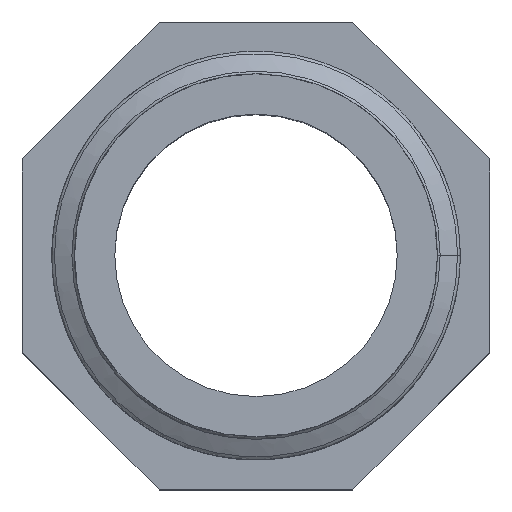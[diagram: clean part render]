
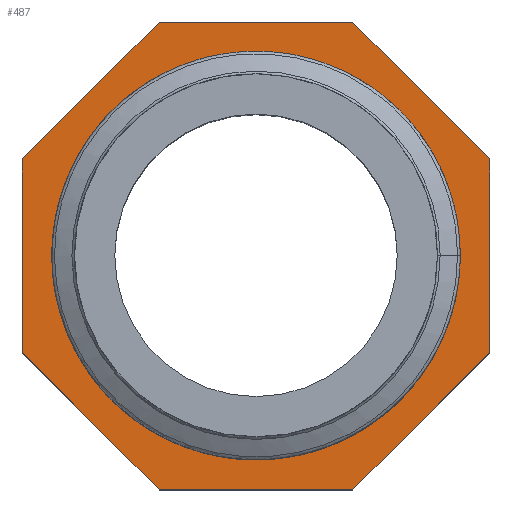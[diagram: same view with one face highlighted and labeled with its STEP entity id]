
A CAD part, top view. The second image highlights one B-rep face of the part: STEP entity #487.
In plain terms, the highlighted planar face has unit normal (0, 0, 1).
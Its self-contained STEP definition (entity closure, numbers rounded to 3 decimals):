
#17=FACE_BOUND('',#162,.T.);
#38=PLANE('',#520);
#49=LINE('',#7933,#80);
#53=LINE('',#7941,#84);
#56=LINE('',#7947,#87);
#59=LINE('',#7953,#90);
#62=LINE('',#7959,#93);
#65=LINE('',#7965,#96);
#68=LINE('',#7971,#99);
#71=LINE('',#7976,#102);
#80=VECTOR('',#566,9.941);
#84=VECTOR('',#572,9.941);
#87=VECTOR('',#577,9.941);
#90=VECTOR('',#582,9.941);
#93=VECTOR('',#587,9.941);
#96=VECTOR('',#592,9.941);
#99=VECTOR('',#597,9.941);
#102=VECTOR('',#602,9.941);
#129=FACE_OUTER_BOUND('',#161,.T.);
#161=EDGE_LOOP('',(#426,#427,#428,#429,#430,#431,#432,#433));
#162=EDGE_LOOP('',(#434,#435,#436,#437,#438));
#184=B_SPLINE_CURVE_WITH_KNOTS('',3,(#1114,#1115,#1116,#1117,#1118,#1119),
 .UNSPECIFIED.,.F.,.F.,(4,2,4),(0.,0.364,0.819),
 .UNSPECIFIED.);
#187=B_SPLINE_CURVE_WITH_KNOTS('',3,(#1852,#1853,#1854,#1855,#1856,#1857,
#1858,#1859),.UNSPECIFIED.,.F.,.F.,(4,2,2,4),(0.,0.21,0.323,
0.444),.UNSPECIFIED.);
#190=B_SPLINE_CURVE_WITH_KNOTS('',3,(#2414,#2415,#2416,#2417,#2418,#2419,
#2420,#2421,#2422,#2423,#2424,#2425,#2426),.UNSPECIFIED.,.F.,.F.,(4,3,3,
3,4),(0.,0.143,0.644,1.132,1.606),
 .UNSPECIFIED.);
#192=B_SPLINE_CURVE_WITH_KNOTS('',3,(#3152,#3153,#3154,#3155,#3156,#3157,
#3158,#3159,#3160,#3161,#3162,#3163),.UNSPECIFIED.,.F.,.F.,(4,2,2,2,2,4),
(0.,0.26,0.498,0.73,0.889,
1.024),.UNSPECIFIED.);
#194=B_SPLINE_CURVE_WITH_KNOTS('',3,(#3670,#3671,#3672,#3673,#3674,#3675,
#3676,#3677,#3678,#3679,#3680,#3681,#3682),.UNSPECIFIED.,.F.,.F.,(4,3,3,
3,4),(0.,0.137,0.613,1.102,1.603),
 .UNSPECIFIED.);
#207=VERTEX_POINT('',#1112);
#208=VERTEX_POINT('',#1113);
#211=VERTEX_POINT('',#1851);
#214=VERTEX_POINT('',#2413);
#216=VERTEX_POINT('',#3151);
#231=VERTEX_POINT('',#7931);
#232=VERTEX_POINT('',#7932);
#235=VERTEX_POINT('',#7940);
#237=VERTEX_POINT('',#7946);
#239=VERTEX_POINT('',#7952);
#241=VERTEX_POINT('',#7958);
#243=VERTEX_POINT('',#7964);
#245=VERTEX_POINT('',#7970);
#251=EDGE_CURVE('',#207,#208,#184,.T.);
#255=EDGE_CURVE('',#211,#207,#187,.T.);
#259=EDGE_CURVE('',#214,#211,#190,.T.);
#262=EDGE_CURVE('',#216,#214,#192,.T.);
#265=EDGE_CURVE('',#208,#216,#194,.T.);
#290=EDGE_CURVE('',#231,#232,#49,.T.);
#294=EDGE_CURVE('',#235,#231,#53,.T.);
#297=EDGE_CURVE('',#237,#235,#56,.T.);
#300=EDGE_CURVE('',#239,#237,#59,.T.);
#303=EDGE_CURVE('',#241,#239,#62,.T.);
#306=EDGE_CURVE('',#243,#241,#65,.T.);
#309=EDGE_CURVE('',#245,#243,#68,.T.);
#312=EDGE_CURVE('',#232,#245,#71,.T.);
#426=ORIENTED_EDGE('',*,*,#312,.F.);
#427=ORIENTED_EDGE('',*,*,#290,.F.);
#428=ORIENTED_EDGE('',*,*,#294,.F.);
#429=ORIENTED_EDGE('',*,*,#297,.F.);
#430=ORIENTED_EDGE('',*,*,#300,.F.);
#431=ORIENTED_EDGE('',*,*,#303,.F.);
#432=ORIENTED_EDGE('',*,*,#306,.F.);
#433=ORIENTED_EDGE('',*,*,#309,.F.);
#434=ORIENTED_EDGE('',*,*,#251,.T.);
#435=ORIENTED_EDGE('',*,*,#265,.T.);
#436=ORIENTED_EDGE('',*,*,#262,.T.);
#437=ORIENTED_EDGE('',*,*,#259,.T.);
#438=ORIENTED_EDGE('',*,*,#255,.T.);
#487=ADVANCED_FACE('',(#129,#17),#38,.T.);
#520=AXIS2_PLACEMENT_3D('',#7984,#612,#613);
#566=DIRECTION('',(1.,0.,0.));
#572=DIRECTION('',(0.707,0.707,0.));
#577=DIRECTION('',(0.,1.,0.));
#582=DIRECTION('',(-0.707,0.707,0.));
#587=DIRECTION('',(-1.,0.,0.));
#592=DIRECTION('',(-0.707,-0.707,0.));
#597=DIRECTION('',(0.,-1.,0.));
#602=DIRECTION('',(0.707,-0.707,0.));
#612=DIRECTION('center_axis',(0.,0.,1.));
#613=DIRECTION('ref_axis',(1.,0.,0.));
#1112=CARTESIAN_POINT('',(-1.11,-9.248,20.));
#1113=CARTESIAN_POINT('',(-7.301,-5.998,20.));
#1114=CARTESIAN_POINT('Ctrl Pts',(-1.111,-9.249,20.));
#1115=CARTESIAN_POINT('Ctrl Pts',(-2.316,-9.104,20.));
#1116=CARTESIAN_POINT('Ctrl Pts',(-3.48,-8.734,20.));
#1117=CARTESIAN_POINT('Ctrl Pts',(-5.888,-7.44,20.));
#1118=CARTESIAN_POINT('Ctrl Pts',(-6.778,-6.564,20.));
#1119=CARTESIAN_POINT('Ctrl Pts',(-7.301,-5.998,20.));
#1851=CARTESIAN_POINT('',(5.673,-7.556,20.));
#1852=CARTESIAN_POINT('Ctrl Pts',(5.674,-7.556,20.));
#1853=CARTESIAN_POINT('Ctrl Pts',(5.089,-7.944,20.));
#1854=CARTESIAN_POINT('Ctrl Pts',(4.196,-8.476,20.));
#1855=CARTESIAN_POINT('Ctrl Pts',(2.367,-9.059,20.));
#1856=CARTESIAN_POINT('Ctrl Pts',(1.711,-9.197,20.));
#1857=CARTESIAN_POINT('Ctrl Pts',(0.328,-9.341,20.));
#1858=CARTESIAN_POINT('Ctrl Pts',(-0.395,-9.335,
20.));
#1859=CARTESIAN_POINT('Ctrl Pts',(-1.111,-9.249,20.));
#2413=CARTESIAN_POINT('',(7.993,6.567,20.));
#2414=CARTESIAN_POINT('Ctrl Pts',(7.993,6.567,20.));
#2415=CARTESIAN_POINT('Ctrl Pts',(8.275,6.184,20.));
#2416=CARTESIAN_POINT('Ctrl Pts',(8.53,5.783,20.));
#2417=CARTESIAN_POINT('Ctrl Pts',(8.755,5.367,20.));
#2418=CARTESIAN_POINT('Ctrl Pts',(9.547,3.904,20.));
#2419=CARTESIAN_POINT('Ctrl Pts',(9.976,2.239,20.));
#2420=CARTESIAN_POINT('Ctrl Pts',(9.979,0.577,20.));
#2421=CARTESIAN_POINT('Ctrl Pts',(9.983,-1.042,20.));
#2422=CARTESIAN_POINT('Ctrl Pts',(9.585,-2.664,20.));
#2423=CARTESIAN_POINT('Ctrl Pts',(8.819,-4.093,20.));
#2424=CARTESIAN_POINT('Ctrl Pts',(8.077,-5.481,20.));
#2425=CARTESIAN_POINT('Ctrl Pts',(6.988,-6.685,20.));
#2426=CARTESIAN_POINT('Ctrl Pts',(5.674,-7.556,20.));
#3151=CARTESIAN_POINT('',(-6.211,8.273,20.));
#3152=CARTESIAN_POINT('Ctrl Pts',(-6.211,8.272,20.));
#3153=CARTESIAN_POINT('Ctrl Pts',(-5.548,8.828,20.));
#3154=CARTESIAN_POINT('Ctrl Pts',(-4.519,9.504,20.));
#3155=CARTESIAN_POINT('Ctrl Pts',(-1.883,10.382,20.));
#3156=CARTESIAN_POINT('Ctrl Pts',(-0.546,10.546,20.));
#3157=CARTESIAN_POINT('Ctrl Pts',(2.073,10.354,20.));
#3158=CARTESIAN_POINT('Ctrl Pts',(3.335,10.013,20.));
#3159=CARTESIAN_POINT('Ctrl Pts',(5.294,9.054,20.));
#3160=CARTESIAN_POINT('Ctrl Pts',(6.038,8.558,20.));
#3161=CARTESIAN_POINT('Ctrl Pts',(7.265,7.472,20.));
#3162=CARTESIAN_POINT('Ctrl Pts',(7.688,6.981,20.));
#3163=CARTESIAN_POINT('Ctrl Pts',(7.993,6.567,20.));
#3670=CARTESIAN_POINT('Ctrl Pts',(-7.301,-5.998,20.));
#3671=CARTESIAN_POINT('Ctrl Pts',(-7.611,-5.663,20.));
#3672=CARTESIAN_POINT('Ctrl Pts',(-7.896,-5.308,20.));
#3673=CARTESIAN_POINT('Ctrl Pts',(-8.153,-4.934,20.));
#3674=CARTESIAN_POINT('Ctrl Pts',(-9.048,-3.632,20.));
#3675=CARTESIAN_POINT('Ctrl Pts',(-9.613,-2.099,20.));
#3676=CARTESIAN_POINT('Ctrl Pts',(-9.787,-0.528,20.));
#3677=CARTESIAN_POINT('Ctrl Pts',(-9.966,1.086,20.));
#3678=CARTESIAN_POINT('Ctrl Pts',(-9.736,2.747,20.));
#3679=CARTESIAN_POINT('Ctrl Pts',(-9.129,4.258,20.));
#3680=CARTESIAN_POINT('Ctrl Pts',(-8.508,5.807,20.));
#3681=CARTESIAN_POINT('Ctrl Pts',(-7.493,7.198,20.));
#3682=CARTESIAN_POINT('Ctrl Pts',(-6.211,8.272,20.));
#7931=CARTESIAN_POINT('',(-4.971,12.,20.));
#7932=CARTESIAN_POINT('',(4.971,12.,20.));
#7933=CARTESIAN_POINT('',(-4.971,12.,20.));
#7940=CARTESIAN_POINT('',(-12.,4.971,20.));
#7941=CARTESIAN_POINT('',(-12.,4.971,20.));
#7946=CARTESIAN_POINT('',(-12.,-4.971,20.));
#7947=CARTESIAN_POINT('',(-12.,-4.971,20.));
#7952=CARTESIAN_POINT('',(-4.971,-12.,20.));
#7953=CARTESIAN_POINT('',(-4.971,-12.,20.));
#7958=CARTESIAN_POINT('',(4.971,-12.,20.));
#7959=CARTESIAN_POINT('',(4.971,-12.,20.));
#7964=CARTESIAN_POINT('',(12.,-4.971,20.));
#7965=CARTESIAN_POINT('',(12.,-4.971,20.));
#7970=CARTESIAN_POINT('',(12.,4.971,20.));
#7971=CARTESIAN_POINT('',(12.,4.971,20.));
#7976=CARTESIAN_POINT('',(4.971,12.,20.));
#7984=CARTESIAN_POINT('Origin',(9.316,0.,20.));
